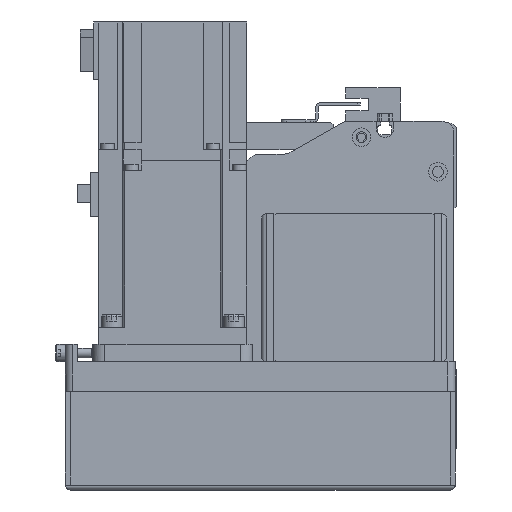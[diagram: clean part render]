
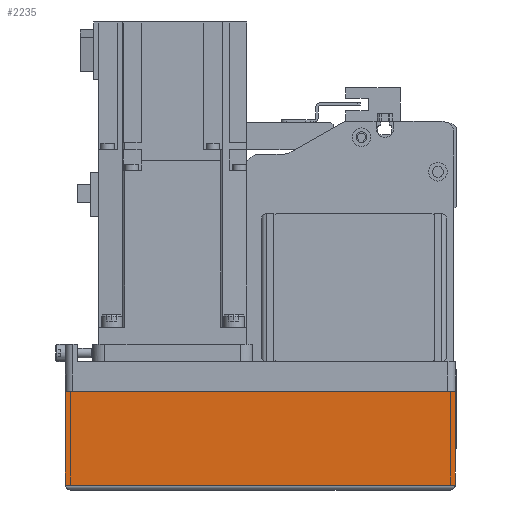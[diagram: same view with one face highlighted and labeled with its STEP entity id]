
A CAD part, left-side view. The second image highlights one B-rep face of the part: STEP entity #2235.
In plain terms, the highlighted planar face has unit normal (-1, 0, 0) as drawn and (0, -1, 0) by its records, which use the part's own axes.
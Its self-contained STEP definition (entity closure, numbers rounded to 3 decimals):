
#2235 = ADVANCED_FACE( '', ( #4991 ), #4992, .T. );
#4991 = FACE_OUTER_BOUND( '', #8309, .T. );
#4992 = PLANE( '', #8310 );
#8309 = EDGE_LOOP( '', ( #14605, #14606, #14607, #14608 ) );
#8310 = AXIS2_PLACEMENT_3D( '', #14609, #14610, #14611 );
#14605 = ORIENTED_EDGE( '', *, *, #21240, .F. );
#14606 = ORIENTED_EDGE( '', *, *, #19498, .F. );
#14607 = ORIENTED_EDGE( '', *, *, #21283, .T. );
#14608 = ORIENTED_EDGE( '', *, *, #19623, .T. );
#14609 = CARTESIAN_POINT( '', ( -158., -39., -12.1 ) );
#14610 = DIRECTION( '', ( 0., -1., 0. ) );
#14611 = DIRECTION( '', ( 0., 0., -1. ) );
#19498 = EDGE_CURVE( '', #23497, #23498, #23499, .T. );
#19623 = EDGE_CURVE( '', #23705, #23709, #23711, .T. );
#21240 = EDGE_CURVE( '', #23498, #23709, #26199, .T. );
#21283 = EDGE_CURVE( '', #23497, #23705, #26255, .T. );
#23497 = VERTEX_POINT( '', #29195 );
#23498 = VERTEX_POINT( '', #29196 );
#23499 = LINE( '', #29197, #29198 );
#23705 = VERTEX_POINT( '', #29469 );
#23709 = VERTEX_POINT( '', #29474 );
#23711 = LINE( '', #29476, #29477 );
#26199 = LINE( '', #33235, #33236 );
#26255 = LINE( '', #33318, #33319 );
#29195 = CARTESIAN_POINT( '', ( -158., -39., -12.1 ) );
#29196 = CARTESIAN_POINT( '', ( 0., -39., -12.1 ) );
#29197 = CARTESIAN_POINT( '', ( -158., -39., -12.1 ) );
#29198 = VECTOR( '', #36069, 1000. );
#29469 = CARTESIAN_POINT( '', ( -158., -39., -50. ) );
#29474 = CARTESIAN_POINT( '', ( 0., -39., -50. ) );
#29476 = CARTESIAN_POINT( '', ( -158., -39., -50. ) );
#29477 = VECTOR( '', #36238, 1000. );
#33235 = CARTESIAN_POINT( '', ( 0., -39., -12.1 ) );
#33236 = VECTOR( '', #38191, 1000. );
#33318 = CARTESIAN_POINT( '', ( -158., -39., -12.1 ) );
#33319 = VECTOR( '', #38228, 1000. );
#36069 = DIRECTION( '', ( 1., 0., 0. ) );
#36238 = DIRECTION( '', ( 1., 0., 0. ) );
#38191 = DIRECTION( '', ( 0., 0., -1. ) );
#38228 = DIRECTION( '', ( 0., 0., -1. ) );
